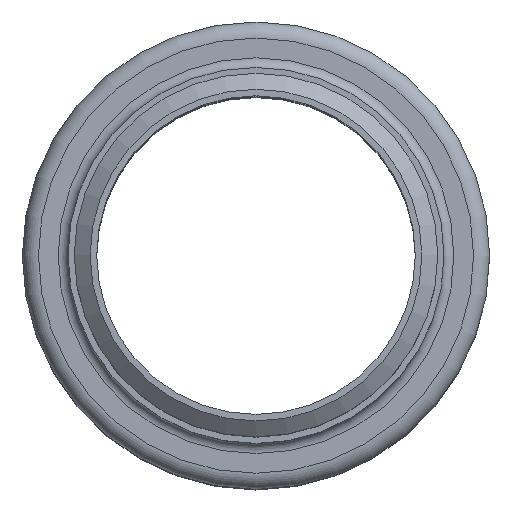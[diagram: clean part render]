
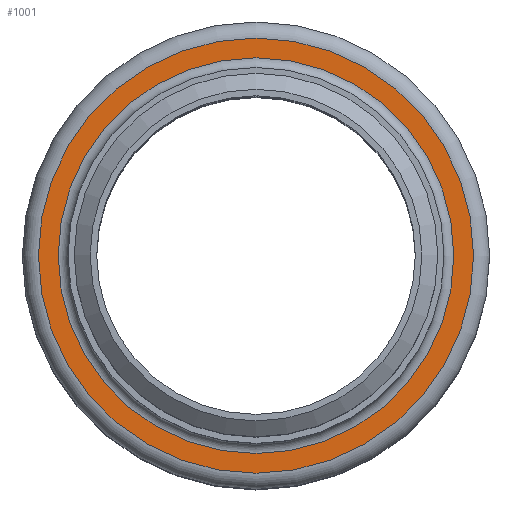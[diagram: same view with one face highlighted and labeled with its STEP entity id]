
A CAD part, top view. The second image highlights one B-rep face of the part: STEP entity #1001.
In plain terms, the highlighted planar face has unit normal (0, 0, 1).
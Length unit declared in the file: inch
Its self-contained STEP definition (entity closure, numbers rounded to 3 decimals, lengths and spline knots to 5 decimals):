
#123=FACE_BOUND('',#304,.T.);
#192=FACE_OUTER_BOUND('',#303,.T.);
#303=EDGE_LOOP('',(#832));
#304=EDGE_LOOP('',(#833));
#424=CIRCLE('',#1220,1.905);
#425=CIRCLE('',#1222,2.095);
#511=VERTEX_POINT('',#1895);
#512=VERTEX_POINT('',#1899);
#622=EDGE_CURVE('',#511,#511,#424,.T.);
#623=EDGE_CURVE('',#512,#512,#425,.T.);
#832=ORIENTED_EDGE('',*,*,#623,.F.);
#833=ORIENTED_EDGE('',*,*,#622,.T.);
#932=PLANE('',#1221);
#1001=ADVANCED_FACE('',(#192,#123),#932,.T.);
#1220=AXIS2_PLACEMENT_3D('',#1897,#1573,#1574);
#1221=AXIS2_PLACEMENT_3D('',#1898,#1575,#1576);
#1222=AXIS2_PLACEMENT_3D('',#1900,#1577,#1578);
#1573=DIRECTION('center_axis',(0.,0.,-1.));
#1574=DIRECTION('ref_axis',(1.,0.,0.));
#1575=DIRECTION('center_axis',(0.,0.,1.));
#1576=DIRECTION('ref_axis',(1.,0.,0.));
#1577=DIRECTION('center_axis',(0.,0.,-1.));
#1578=DIRECTION('ref_axis',(1.,0.,0.));
#1895=CARTESIAN_POINT('',(1.905,0.,-0.095));
#1897=CARTESIAN_POINT('Origin',(0.,0.,-0.095));
#1898=CARTESIAN_POINT('Origin',(0.,2.095,-0.095));
#1899=CARTESIAN_POINT('',(2.095,0.,-0.095));
#1900=CARTESIAN_POINT('Origin',(0.,0.,-0.095));
